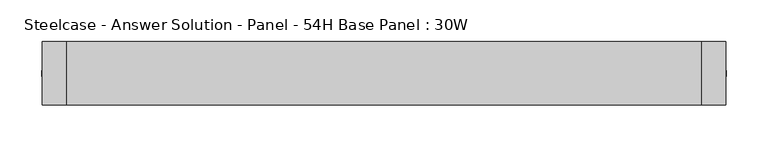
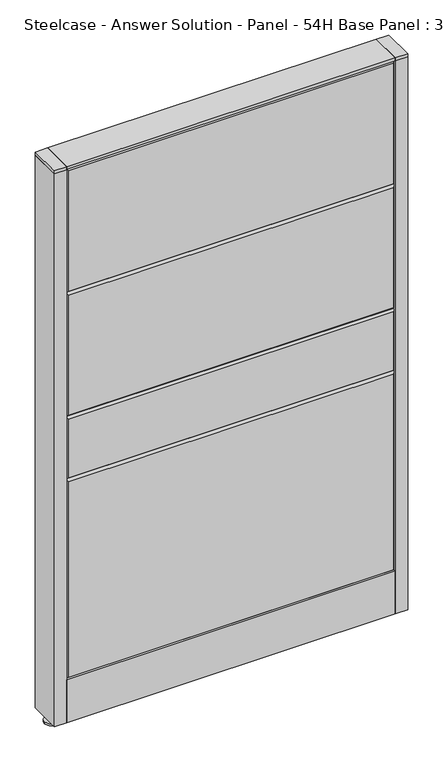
"""IFC4 building model written with IfcOpenShell, lengths in millimetres: furniture geometry, Steelcase - Answer Solution - Panel - 54H Base Panel : 30W."""

from ifc_helpers import new_model, si_unit, point, frame, frame_2d, origin, place, context, project, spatial, polyline, circle_curve, trimmed, segment, composite_curve, outline, extrude, faceted_brep, source, transform, mapped, element, save


def steelcase_answer_solution_panel_54h_base_panel_30w_65271f7d(model_context):
    return source(origin(), model_context, "Body", "SolidModel", [
        extrude(outline(composite_curve([segment(trimmed(circle_curve(frame_2d((395.224, 0.0320214)), 5.08), [point((400.304, 0.0320214))], [point((390.144, 0.0320214))], False, "CARTESIAN"), True, "CONTINUOUS"), segment(trimmed(circle_curve(frame_2d((395.224, 0.0320214)), 5.08), [point((390.144, 0.0320214))], [point((400.304, 0.0320214))], False, "CARTESIAN"), True, "CONTINUOUS")], self_intersect=False)), frame((0.0, 0.0, 5.0799671), z_axis=(0.0, 0.0, 1.0), x_axis=(1.0, 0.0, 0.0)), (0.0, 0.0, 1.0), 10.414),
        extrude(outline(composite_curve([segment(trimmed(circle_curve(frame_2d((395.224, 0.0320214)), 15.24), [point((410.464, 0.0320214))], [point((379.984, 0.0320214))], False, "CARTESIAN"), True, "CONTINUOUS"), segment(trimmed(circle_curve(frame_2d((395.224, 0.0320214)), 15.24), [point((379.984, 0.0320214))], [point((410.464, 0.0320214))], False, "CARTESIAN"), True, "CONTINUOUS")], self_intersect=False)), frame((0.0, 0.0, -3.29e-05), z_axis=(0.0, 0.0, 1.0), x_axis=(1.0, 0.0, 0.0)), (0.0, 0.0, 1.0), 5.08),
        extrude(outline(polyline([(409.575, 38.1320408), (409.575, -38.0679592), (381.0, -38.0679592), (381.0, 38.1320408), (409.575, 38.1320408)])), frame((0.0, 0.0, 1370.6348), z_axis=(0.0, 0.0, 1.0), x_axis=(1.0, 0.0, 0.0)), (0.0, 0.0, 1.0), 7.3151671),
        extrude(outline(polyline([(409.575, 38.1320408), (409.575, -38.0679592), (381.0, -38.0679592), (381.0, 38.1320408), (409.575, 38.1320408)])), frame((0.0, 0.0, 15.4939671), z_axis=(0.0, 0.0, 1.0), x_axis=(1.0, 0.0, 0.0)), (0.0, 0.0, 1.0), 1355.1408329),
        extrude(outline(composite_curve([segment(trimmed(circle_curve(frame_2d((-395.224, 0.0320214)), 5.08), [point((-400.304, 0.0320214))], [point((-390.144, 0.0320214))], False, "CARTESIAN"), True, "CONTINUOUS"), segment(trimmed(circle_curve(frame_2d((-395.224, 0.0320214)), 5.08), [point((-390.144, 0.0320214))], [point((-400.304, 0.0320214))], False, "CARTESIAN"), True, "CONTINUOUS")], self_intersect=False)), frame((0.0, 0.0, 5.0799671), z_axis=(0.0, 0.0, 1.0), x_axis=(1.0, 0.0, 0.0)), (0.0, 0.0, 1.0), 10.414),
        extrude(outline(composite_curve([segment(trimmed(circle_curve(frame_2d((-395.224, 0.0320214)), 15.24), [point((-410.464, 0.0320214))], [point((-379.984, 0.0320214))], False, "CARTESIAN"), True, "CONTINUOUS"), segment(trimmed(circle_curve(frame_2d((-395.224, 0.0320214)), 15.24), [point((-379.984, 0.0320214))], [point((-410.464, 0.0320214))], False, "CARTESIAN"), True, "CONTINUOUS")], self_intersect=False)), frame((0.0, 0.0, -3.29e-05), z_axis=(0.0, 0.0, 1.0), x_axis=(1.0, 0.0, 0.0)), (0.0, 0.0, 1.0), 5.08),
        extrude(outline(polyline([(-409.575, 38.1320408), (-381.0, 38.1320408), (-381.0, -38.0679592), (-409.575, -38.0679592), (-409.575, 38.1320408)])), frame((0.0, 0.0, 1370.6348), z_axis=(0.0, 0.0, 1.0), x_axis=(1.0, 0.0, 0.0)), (0.0, 0.0, 1.0), 7.3151671),
        extrude(outline(polyline([(-409.575, 38.1320408), (-381.0, 38.1320408), (-381.0, -38.0679592), (-409.575, -38.0679592), (-409.575, 38.1320408)])), frame((0.0, 0.0, 15.4939671), z_axis=(0.0, 0.0, 1.0), x_axis=(1.0, 0.0, 0.0)), (0.0, 0.0, 1.0), 1355.1408329),
        faceted_brep([(-376.174, 38.1635011, 1366.774), (376.174, 38.1635011, 1366.774), (376.174, 38.1635011, 1071.626), (-376.174, 38.1635011, 1071.626), (-381.0, 33.3375011, 1371.6), (-381.0, 33.3375011, 1066.8), (381.0, 33.3375011, 1066.8), (381.0, 33.3375011, 1371.6)], [[[0, 1, 2, 3]], [[4, 5, 6, 7]], [[4, 7, 1, 0]], [[7, 6, 2, 1]], [[6, 5, 3, 2]], [[5, 4, 0, 3]]]),
        faceted_brep([(-376.174, 38.1635011, 1061.974), (376.174, 38.1635011, 1061.974), (376.174, 38.1635011, 766.826), (-376.174, 38.1635011, 766.826), (-381.0, 33.3375011, 1066.8), (-381.0, 33.3375011, 762.0), (381.0, 33.3375011, 762.0), (381.0, 33.3375011, 1066.8)], [[[0, 1, 2, 3]], [[4, 5, 6, 7]], [[4, 7, 1, 0]], [[7, 6, 2, 1]], [[6, 5, 3, 2]], [[5, 4, 0, 3]]]),
        faceted_brep([(-376.174, 38.1635011, 757.174), (376.174, 38.1635011, 757.174), (376.174, 38.1635011, 614.426), (-376.174, 38.1635011, 614.426), (-381.0, 33.3375011, 762.0), (-381.0, 33.3375011, 609.6), (381.0, 33.3375011, 609.6), (381.0, 33.3375011, 762.0)], [[[0, 1, 2, 3]], [[4, 5, 6, 7]], [[4, 7, 1, 0]], [[7, 6, 2, 1]], [[6, 5, 3, 2]], [[5, 4, 0, 3]]]),
        faceted_brep([(-376.174, 38.1635011, 604.774), (376.174, 38.1635011, 604.774), (376.174, 38.1635011, 125.476), (-376.174, 38.1635011, 125.476), (-381.0, 33.3375011, 609.6), (-381.0, 33.3375011, 120.65), (381.0, 33.3375011, 120.65), (381.0, 33.3375011, 609.6)], [[[0, 1, 2, 3]], [[4, 5, 6, 7]], [[4, 7, 1, 0]], [[7, 6, 2, 1]], [[6, 5, 3, 2]], [[5, 4, 0, 3]]]),
        faceted_brep([(376.174, -38.1635011, 1366.774), (-376.174, -38.1635011, 1366.774), (-376.174, -38.1635011, 1071.626), (376.174, -38.1635011, 1071.626), (381.0, -33.3375011, 1371.6), (381.0, -33.3375011, 1066.8), (-381.0, -33.3375011, 1066.8), (-381.0, -33.3375011, 1371.6)], [[[0, 1, 2, 3]], [[4, 5, 6, 7]], [[4, 7, 1, 0]], [[7, 6, 2, 1]], [[6, 5, 3, 2]], [[5, 4, 0, 3]]]),
        faceted_brep([(376.174, -38.1635011, 1061.974), (-376.174, -38.1635011, 1061.974), (-376.174, -38.1635011, 766.826), (376.174, -38.1635011, 766.826), (381.0, -33.3375011, 1066.8), (381.0, -33.3375011, 762.0), (-381.0, -33.3375011, 762.0), (-381.0, -33.3375011, 1066.8)], [[[0, 1, 2, 3]], [[4, 5, 6, 7]], [[4, 7, 1, 0]], [[7, 6, 2, 1]], [[6, 5, 3, 2]], [[5, 4, 0, 3]]]),
        faceted_brep([(376.174, -38.1635011, 757.174), (-376.174, -38.1635011, 757.174), (-376.174, -38.1635011, 614.426), (376.174, -38.1635011, 614.426), (381.0, -33.3375011, 762.0), (381.0, -33.3375011, 609.6), (-381.0, -33.3375011, 609.6), (-381.0, -33.3375011, 762.0)], [[[0, 1, 2, 3]], [[4, 5, 6, 7]], [[4, 7, 1, 0]], [[7, 6, 2, 1]], [[6, 5, 3, 2]], [[5, 4, 0, 3]]]),
        faceted_brep([(376.174, -38.1635011, 604.774), (-376.174, -38.1635011, 604.774), (-376.174, -38.1635011, 125.476), (376.174, -38.1635011, 125.476), (381.0, -33.3375011, 609.6), (381.0, -33.3375011, 120.65), (-381.0, -33.3375011, 120.65), (-381.0, -33.3375011, 609.6)], [[[0, 1, 2, 3]], [[4, 5, 6, 7]], [[4, 7, 1, 0]], [[7, 6, 2, 1]], [[6, 5, 3, 2]], [[5, 4, 0, 3]]]),
        extrude(outline(polyline([(381.0, 38.1000194), (381.0, -38.1000194), (-381.0, -38.1000194), (-381.0, 38.1000194), (381.0, 38.1000194)])), frame((0.0, 0.0, 1371.6), z_axis=(0.0, 0.0, 1.0), x_axis=(1.0, 0.0, 0.0)), (0.0, 0.0, 1.0), 6.35),
        extrude(outline(polyline([(25.4000011, 119.8575157), (25.4000011, 120.65), (38.1000194, 120.65), (38.1000194, 15.494), (37.3075215, 15.494), (37.3075215, 119.8575157), (25.4000011, 119.8575157)])), frame((-381.0, 0.0, 0.0), z_axis=(1.0, 0.0, 0.0), x_axis=(0.0, 1.0, 0.0)), (0.0, 0.0, 1.0), 762.0),
        extrude(outline(polyline([(-25.4000011, 119.8575157), (-37.3075215, 119.8575157), (-37.3075215, 15.494), (-38.1000194, 15.494), (-38.1000194, 120.65), (-25.4000011, 120.65), (-25.4000011, 119.8575157)])), frame((-381.0, 0.0, 0.0), z_axis=(1.0, 0.0, 0.0), x_axis=(0.0, 1.0, 0.0)), (0.0, 0.0, 1.0), 762.0),
    ])


if __name__ == "__main__":
    model = new_model("IFC4")
    model_context = context("Model", 3, world=origin())
    ifc_project = project(units=[si_unit("LENGTHUNIT", "METRE", prefix="MILLI")], contexts=[model_context])
    site = spatial("IfcSite", under=ifc_project)
    building = spatial("IfcBuilding", under=site)
    placement = place(None, origin())
    steelcase_answer_solution_panel_54h_base_panel_30w_shape = steelcase_answer_solution_panel_54h_base_panel_30w_65271f7d(model_context)
    element("IfcFurniture", 1, ObjectType="Steelcase - Answer Solution - Panel - 54H Base Panel : 30W", at=placement, inside=building, context=model_context, shape_type="MappedRepresentation", body=[
        mapped(steelcase_answer_solution_panel_54h_base_panel_30w_shape, transform((0.0, 0.0, 0.0), x_axis=(1.0, 0.0, 0.0), y_axis=(0.0, 1.0, 0.0), z_axis=(0.0, 0.0, 1.0))),
    ])
    save(model, "model.ifc")
